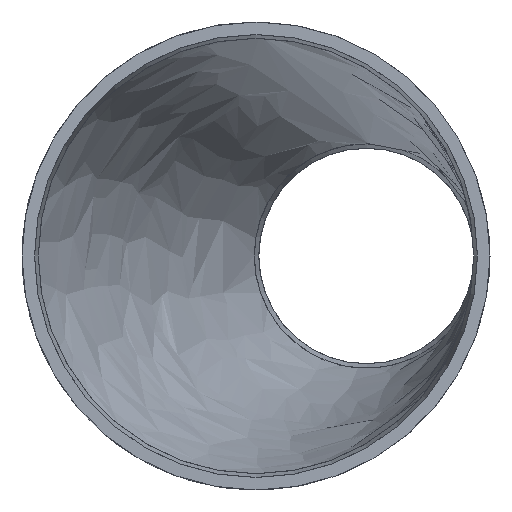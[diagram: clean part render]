
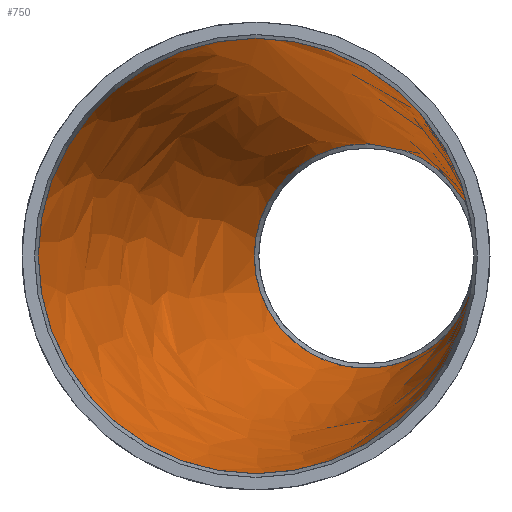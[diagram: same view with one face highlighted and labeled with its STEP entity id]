
A CAD part, left-side view. The second image highlights one B-rep face of the part: STEP entity #750.
In plain terms, the highlighted free-form (B-spline) face has degree [1, 2] with [2, 9] control points.
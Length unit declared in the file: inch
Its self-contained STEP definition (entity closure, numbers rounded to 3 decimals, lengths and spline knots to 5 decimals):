
#57=B_SPLINE_CURVE_WITH_KNOTS('',1,(#1385,#1386),.UNSPECIFIED.,.F.,.F.,
(2,2),(0.00267,3.58178),.UNSPECIFIED.);
#59=(
BOUNDED_SURFACE()
B_SPLINE_SURFACE(1,2,((#1367,#1368,#1369,#1370,#1371,#1372,#1373,#1374,
#1375),(#1376,#1377,#1378,#1379,#1380,#1381,#1382,#1383,#1384)),
 .UNSPECIFIED.,.F.,.T.,.F.)
B_SPLINE_SURFACE_WITH_KNOTS((2,2),(3,2,2,2,3),(-0.14347,3.65134),
(-3.14159,-1.5708,0.,1.5708,3.14159),
 .UNSPECIFIED.)
GEOMETRIC_REPRESENTATION_ITEM()
RATIONAL_B_SPLINE_SURFACE(((1.,0.707,1.,0.707,1.,
0.707,1.,0.707,1.),(1.,0.707,1.,0.707,
1.,0.707,1.,0.707,1.)))
REPRESENTATION_ITEM('')
SURFACE()
);
#127=FACE_OUTER_BOUND('',#159,.T.);
#159=EDGE_LOOP('',(#612,#613,#614,#615,#616,#617,#618,#619,#620,#621));
#209=CIRCLE('',#823,2.13);
#210=CIRCLE('',#824,2.13);
#211=CIRCLE('',#825,2.13);
#212=CIRCLE('',#826,2.13);
#223=CIRCLE('',#840,1.08);
#224=CIRCLE('',#841,1.08);
#225=CIRCLE('',#842,1.08);
#226=CIRCLE('',#843,1.08);
#298=VERTEX_POINT('',#1280);
#299=VERTEX_POINT('',#1281);
#300=VERTEX_POINT('',#1283);
#301=VERTEX_POINT('',#1285);
#311=VERTEX_POINT('',#1312);
#312=VERTEX_POINT('',#1313);
#313=VERTEX_POINT('',#1315);
#314=VERTEX_POINT('',#1317);
#391=EDGE_CURVE('',#298,#299,#209,.T.);
#392=EDGE_CURVE('',#299,#300,#210,.T.);
#393=EDGE_CURVE('',#300,#301,#211,.T.);
#395=EDGE_CURVE('',#301,#298,#212,.T.);
#407=EDGE_CURVE('',#311,#312,#223,.T.);
#408=EDGE_CURVE('',#312,#313,#224,.T.);
#409=EDGE_CURVE('',#313,#314,#225,.T.);
#411=EDGE_CURVE('',#314,#311,#226,.T.);
#435=EDGE_CURVE('',#299,#313,#57,.T.);
#612=ORIENTED_EDGE('',*,*,#391,.F.);
#613=ORIENTED_EDGE('',*,*,#395,.F.);
#614=ORIENTED_EDGE('',*,*,#393,.F.);
#615=ORIENTED_EDGE('',*,*,#392,.F.);
#616=ORIENTED_EDGE('',*,*,#435,.T.);
#617=ORIENTED_EDGE('',*,*,#408,.F.);
#618=ORIENTED_EDGE('',*,*,#407,.F.);
#619=ORIENTED_EDGE('',*,*,#411,.F.);
#620=ORIENTED_EDGE('',*,*,#409,.F.);
#621=ORIENTED_EDGE('',*,*,#435,.F.);
#750=ADVANCED_FACE('',(#127),#59,.T.);
#823=AXIS2_PLACEMENT_3D('',#1282,#1004,#1005);
#824=AXIS2_PLACEMENT_3D('',#1284,#1006,#1007);
#825=AXIS2_PLACEMENT_3D('',#1286,#1008,#1009);
#826=AXIS2_PLACEMENT_3D('',#1288,#1011,#1012);
#840=AXIS2_PLACEMENT_3D('',#1314,#1040,#1041);
#841=AXIS2_PLACEMENT_3D('',#1316,#1042,#1043);
#842=AXIS2_PLACEMENT_3D('',#1318,#1044,#1045);
#843=AXIS2_PLACEMENT_3D('',#1320,#1047,#1048);
#1004=DIRECTION('center_axis',(1.,0.,0.));
#1005=DIRECTION('ref_axis',(0.,1.,0.));
#1006=DIRECTION('center_axis',(1.,0.,0.));
#1007=DIRECTION('ref_axis',(0.,1.,0.));
#1008=DIRECTION('center_axis',(1.,0.,0.));
#1009=DIRECTION('ref_axis',(0.,1.,0.));
#1011=DIRECTION('center_axis',(1.,0.,0.));
#1012=DIRECTION('ref_axis',(0.,1.,0.));
#1040=DIRECTION('center_axis',(-1.,0.,0.));
#1041=DIRECTION('ref_axis',(0.,-1.,0.));
#1042=DIRECTION('center_axis',(-1.,0.,0.));
#1043=DIRECTION('ref_axis',(0.,-1.,0.));
#1044=DIRECTION('center_axis',(-1.,0.,0.));
#1045=DIRECTION('ref_axis',(0.,-1.,0.));
#1047=DIRECTION('center_axis',(-1.,0.,0.));
#1048=DIRECTION('ref_axis',(0.,-1.,0.));
#1280=CARTESIAN_POINT('',(1.26,-2.10494,-0.32576));
#1281=CARTESIAN_POINT('',(1.26,-0.04086,2.12961));
#1282=CARTESIAN_POINT('Origin',(1.26,0.,0.));
#1283=CARTESIAN_POINT('',(1.26,-2.10494,0.32576));
#1284=CARTESIAN_POINT('Origin',(1.26,0.,0.));
#1285=CARTESIAN_POINT('',(1.26,-2.13,0.));
#1286=CARTESIAN_POINT('Origin',(1.26,0.,0.));
#1288=CARTESIAN_POINT('Origin',(1.26,0.,0.));
#1312=CARTESIAN_POINT('',(8.74,-2.12979,-0.16518));
#1313=CARTESIAN_POINT('',(8.74,-2.12979,0.16518));
#1314=CARTESIAN_POINT('Origin',(8.74,-1.0625,0.));
#1315=CARTESIAN_POINT('',(8.74,-1.08322,1.0798));
#1316=CARTESIAN_POINT('Origin',(8.74,-1.0625,0.));
#1317=CARTESIAN_POINT('',(8.74,0.0175,0.));
#1318=CARTESIAN_POINT('Origin',(8.74,-1.0625,0.));
#1320=CARTESIAN_POINT('Origin',(8.74,-1.0625,0.));
#1367=CARTESIAN_POINT('Ctrl Pts',(0.95457,0.00171,
2.17248));
#1368=CARTESIAN_POINT('Ctrl Pts',(0.65765,-2.12899,2.17248));
#1369=CARTESIAN_POINT('Ctrl Pts',(0.65765,-2.12899,0.));
#1370=CARTESIAN_POINT('Ctrl Pts',(0.65765,-2.12899,-2.17248));
#1371=CARTESIAN_POINT('Ctrl Pts',(0.95457,0.00171,
-2.17248));
#1372=CARTESIAN_POINT('Ctrl Pts',(1.25149,2.1324,-2.17248));
#1373=CARTESIAN_POINT('Ctrl Pts',(1.25149,2.1324,0.));
#1374=CARTESIAN_POINT('Ctrl Pts',(1.25149,2.1324,2.17248));
#1375=CARTESIAN_POINT('Ctrl Pts',(0.95457,0.00171,
2.17248));
#1376=CARTESIAN_POINT('Ctrl Pts',(8.88538,-1.10348,1.0594));
#1377=CARTESIAN_POINT('Ctrl Pts',(8.74059,-2.1425,1.0594));
#1378=CARTESIAN_POINT('Ctrl Pts',(8.74059,-2.1425,0.));
#1379=CARTESIAN_POINT('Ctrl Pts',(8.74059,-2.1425,-1.0594));
#1380=CARTESIAN_POINT('Ctrl Pts',(8.88538,-1.10348,-1.0594));
#1381=CARTESIAN_POINT('Ctrl Pts',(9.03017,-0.06445,
-1.0594));
#1382=CARTESIAN_POINT('Ctrl Pts',(9.03017,-0.06445,
0.));
#1383=CARTESIAN_POINT('Ctrl Pts',(9.03017,-0.06445,
1.0594));
#1384=CARTESIAN_POINT('Ctrl Pts',(8.88538,-1.10348,1.0594));
#1385=CARTESIAN_POINT('Ctrl Pts',(1.26,-0.04086,2.12961));
#1386=CARTESIAN_POINT('Ctrl Pts',(8.74,-1.08322,1.0798));
